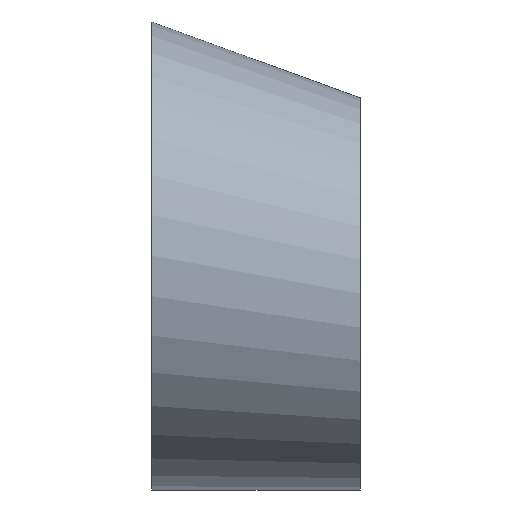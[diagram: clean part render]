
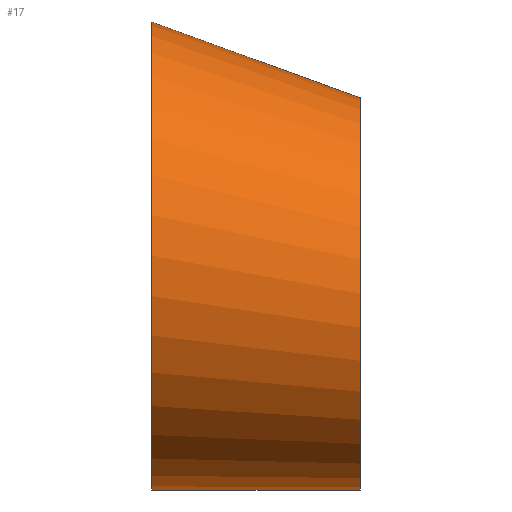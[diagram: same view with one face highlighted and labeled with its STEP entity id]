
A CAD part, top view. The second image highlights one B-rep face of the part: STEP entity #17.
In plain terms, the highlighted free-form (B-spline) face has degree [11, 1] with [22, 2] control points.
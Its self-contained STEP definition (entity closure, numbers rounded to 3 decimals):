
#17 = ADVANCED_FACE('',(#18),#31,.T.);
#18 = FACE_BOUND('',#19,.T.);
#19 = EDGE_LOOP('',(#20,#94,#116,#143));
#20 = ORIENTED_EDGE('',*,*,#21,.T.);
#21 = EDGE_CURVE('',#22,#22,#24,.T.);
#22 = VERTEX_POINT('',#23);
#23 = CARTESIAN_POINT('',(0.,77.,0.));
#24 = SURFACE_CURVE('',#25,(#30,#82),.PCURVE_S1.);
#25 = CIRCLE('',#26,77.);
#26 = AXIS2_PLACEMENT_3D('',#27,#28,#29);
#27 = CARTESIAN_POINT('',(0.,0.,0.));
#28 = DIRECTION('',(1.,0.,0.));
#29 = DIRECTION('',(0.,1.,0.));
#30 = PCURVE('',#31,#76);
#31 = B_SPLINE_SURFACE_WITH_KNOTS('',11,1,(
    (#32,#33)
    ,(#34,#35)
    ,(#36,#37)
    ,(#38,#39)
    ,(#40,#41)
    ,(#42,#43)
    ,(#44,#45)
    ,(#46,#47)
    ,(#48,#49)
    ,(#50,#51)
    ,(#52,#53)
    ,(#54,#55)
    ,(#56,#57)
    ,(#58,#59)
    ,(#60,#61)
    ,(#62,#63)
    ,(#64,#65)
    ,(#66,#67)
    ,(#68,#69)
    ,(#70,#71)
    ,(#72,#73)
    ,(#74,#75
    )),.UNSPECIFIED.,.T.,.F.,.F.,(12,10,12),(2,2),(0.,3.142,
    6.283),(0.,1.),.UNSPECIFIED.);
#32 = CARTESIAN_POINT('',(0.,77.,0.));
#33 = CARTESIAN_POINT('',(68.5,52.,0.));
#34 = CARTESIAN_POINT('',(0.,77.,21.991));
#35 = CARTESIAN_POINT('',(68.5,52.,
    18.421));
#36 = CARTESIAN_POINT('',(0.,70.091,43.982));
#37 = CARTESIAN_POINT('',(68.5,46.213,
    36.842));
#38 = CARTESIAN_POINT('',(0.,56.274,63.562));
#39 = CARTESIAN_POINT('',(68.5,34.638,
    53.243));
#40 = CARTESIAN_POINT('',(0.,36.495,78.318));
#41 = CARTESIAN_POINT('',(68.5,18.07,65.604)
  );
#42 = CARTESIAN_POINT('',(0.,12.648,86.265));
#43 = CARTESIAN_POINT('',(68.5,-1.905,72.261)
  );
#44 = CARTESIAN_POINT('',(0.,-12.648,86.265));
#45 = CARTESIAN_POINT('',(68.5,-23.095,
    72.261));
#46 = CARTESIAN_POINT('',(0.,-36.495,78.318));
#47 = CARTESIAN_POINT('',(68.5,-43.07,
    65.604));
#48 = CARTESIAN_POINT('',(0.,-56.274,63.562));
#49 = CARTESIAN_POINT('',(68.5,-59.638,
    53.243));
#50 = CARTESIAN_POINT('',(0.,-70.091,43.982));
#51 = CARTESIAN_POINT('',(68.5,-71.213,
    36.842));
#52 = CARTESIAN_POINT('',(0.,-77.,21.991));
#53 = CARTESIAN_POINT('',(68.5,-77.,18.421));
#54 = CARTESIAN_POINT('',(0.,-77.,-21.991));
#55 = CARTESIAN_POINT('',(68.5,-77.,-18.421));
#56 = CARTESIAN_POINT('',(0.,-70.091,-43.982));
#57 = CARTESIAN_POINT('',(68.5,-71.213,
    -36.842));
#58 = CARTESIAN_POINT('',(0.,-56.274,-63.562));
#59 = CARTESIAN_POINT('',(68.5,-59.638,
    -53.243));
#60 = CARTESIAN_POINT('',(0.,-36.495,-78.318));
#61 = CARTESIAN_POINT('',(68.5,-43.07,-65.604
    ));
#62 = CARTESIAN_POINT('',(0.,-12.648,-86.265));
#63 = CARTESIAN_POINT('',(68.5,-23.095,
    -72.261));
#64 = CARTESIAN_POINT('',(0.,12.648,-86.265));
#65 = CARTESIAN_POINT('',(68.5,-1.905,-72.261
    ));
#66 = CARTESIAN_POINT('',(0.,36.495,-78.318));
#67 = CARTESIAN_POINT('',(68.5,18.07,
    -65.604));
#68 = CARTESIAN_POINT('',(0.,56.274,-63.562));
#69 = CARTESIAN_POINT('',(68.5,34.638,-53.243
    ));
#70 = CARTESIAN_POINT('',(0.,70.091,-43.982));
#71 = CARTESIAN_POINT('',(68.5,46.213,
    -36.842));
#72 = CARTESIAN_POINT('',(0.,77.,-21.991));
#73 = CARTESIAN_POINT('',(68.5,52.,-18.421));
#74 = CARTESIAN_POINT('',(0.,77.,0.));
#75 = CARTESIAN_POINT('',(68.5,52.,0.));
#76 = DEFINITIONAL_REPRESENTATION('',(#77),#81);
#77 = LINE('',#78,#79);
#78 = CARTESIAN_POINT('',(0.,0.));
#79 = VECTOR('',#80,1.);
#80 = DIRECTION('',(1.,0.));
#81 = ( GEOMETRIC_REPRESENTATION_CONTEXT(2) 
PARAMETRIC_REPRESENTATION_CONTEXT() REPRESENTATION_CONTEXT('2D SPACE',''
  ) );
#82 = PCURVE('',#83,#88);
#83 = PLANE('',#84);
#84 = AXIS2_PLACEMENT_3D('',#85,#86,#87);
#85 = CARTESIAN_POINT('',(0.,0.,0.));
#86 = DIRECTION('',(1.,0.,0.));
#87 = DIRECTION('',(0.,1.,0.));
#88 = DEFINITIONAL_REPRESENTATION('',(#89),#93);
#89 = CIRCLE('',#90,77.);
#90 = AXIS2_PLACEMENT_2D('',#91,#92);
#91 = CARTESIAN_POINT('',(0.,0.));
#92 = DIRECTION('',(1.,0.));
#93 = ( GEOMETRIC_REPRESENTATION_CONTEXT(2) 
PARAMETRIC_REPRESENTATION_CONTEXT() REPRESENTATION_CONTEXT('2D SPACE',''
  ) );
#94 = ORIENTED_EDGE('',*,*,#95,.T.);
#95 = EDGE_CURVE('',#22,#96,#98,.T.);
#96 = VERTEX_POINT('',#97);
#97 = CARTESIAN_POINT('',(68.5,52.,0.));
#98 = SEAM_CURVE('',#99,(#102,#109),.PCURVE_S1.);
#99 = B_SPLINE_CURVE_WITH_KNOTS('',1,(#100,#101),.UNSPECIFIED.,.F.,.F.,(
    2,2),(0.,1.),.PIECEWISE_BEZIER_KNOTS.);
#100 = CARTESIAN_POINT('',(0.,77.,0.));
#101 = CARTESIAN_POINT('',(68.5,52.,0.));
#102 = PCURVE('',#31,#103);
#103 = DEFINITIONAL_REPRESENTATION('',(#104),#108);
#104 = LINE('',#105,#106);
#105 = CARTESIAN_POINT('',(6.283,0.));
#106 = VECTOR('',#107,1.);
#107 = DIRECTION('',(0.,1.));
#108 = ( GEOMETRIC_REPRESENTATION_CONTEXT(2) 
PARAMETRIC_REPRESENTATION_CONTEXT() REPRESENTATION_CONTEXT('2D SPACE',''
  ) );
#109 = PCURVE('',#31,#110);
#110 = DEFINITIONAL_REPRESENTATION('',(#111),#115);
#111 = LINE('',#112,#113);
#112 = CARTESIAN_POINT('',(0.,0.));
#113 = VECTOR('',#114,1.);
#114 = DIRECTION('',(0.,1.));
#115 = ( GEOMETRIC_REPRESENTATION_CONTEXT(2) 
PARAMETRIC_REPRESENTATION_CONTEXT() REPRESENTATION_CONTEXT('2D SPACE',''
  ) );
#116 = ORIENTED_EDGE('',*,*,#117,.F.);
#117 = EDGE_CURVE('',#96,#96,#118,.T.);
#118 = SURFACE_CURVE('',#119,(#124,#131),.PCURVE_S1.);
#119 = CIRCLE('',#120,64.5);
#120 = AXIS2_PLACEMENT_3D('',#121,#122,#123);
#121 = CARTESIAN_POINT('',(68.5,-12.5,0.));
#122 = DIRECTION('',(1.,0.,0.));
#123 = DIRECTION('',(0.,1.,0.));
#124 = PCURVE('',#31,#125);
#125 = DEFINITIONAL_REPRESENTATION('',(#126),#130);
#126 = LINE('',#127,#128);
#127 = CARTESIAN_POINT('',(0.,1.));
#128 = VECTOR('',#129,1.);
#129 = DIRECTION('',(1.,0.));
#130 = ( GEOMETRIC_REPRESENTATION_CONTEXT(2) 
PARAMETRIC_REPRESENTATION_CONTEXT() REPRESENTATION_CONTEXT('2D SPACE',''
  ) );
#131 = PCURVE('',#132,#137);
#132 = PLANE('',#133);
#133 = AXIS2_PLACEMENT_3D('',#134,#135,#136);
#134 = CARTESIAN_POINT('',(68.5,-12.5,0.));
#135 = DIRECTION('',(1.,0.,0.));
#136 = DIRECTION('',(0.,1.,0.));
#137 = DEFINITIONAL_REPRESENTATION('',(#138),#142);
#138 = CIRCLE('',#139,64.5);
#139 = AXIS2_PLACEMENT_2D('',#140,#141);
#140 = CARTESIAN_POINT('',(0.,0.));
#141 = DIRECTION('',(1.,0.));
#142 = ( GEOMETRIC_REPRESENTATION_CONTEXT(2) 
PARAMETRIC_REPRESENTATION_CONTEXT() REPRESENTATION_CONTEXT('2D SPACE',''
  ) );
#143 = ORIENTED_EDGE('',*,*,#95,.F.);
